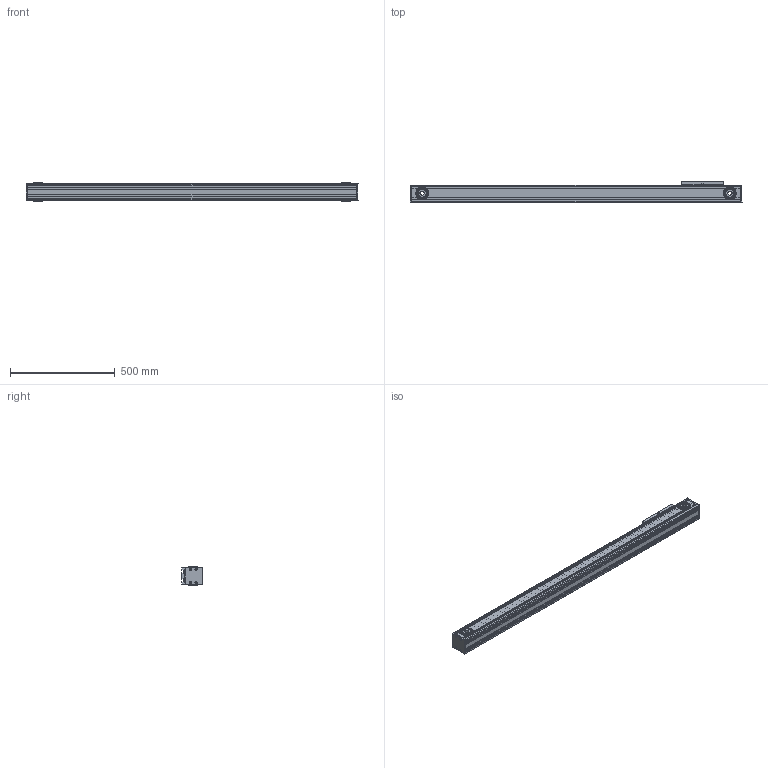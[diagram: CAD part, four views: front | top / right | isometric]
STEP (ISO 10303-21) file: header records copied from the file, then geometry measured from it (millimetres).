
FILE_DESCRIPTION (( 'STEP AP214' ), '1' );
FILE_NAME ('TKR80-1200A1-F0-R3-高速内滚轮直线模组.step', '2025-10-10T03:26:46', ( '' ), ( '' ), 'SwSTEP 2.0', 'SolidWorks 2024', '' );
FILE_SCHEMA (( 'AUTOMOTIVE_DESIGN' ));
Length unit declared in the file: millimetre
Products named in the file (3): TKR80-1200-R3-01; TKR80-1200A1-F0-R3-高速内滚轮直线模组; TKR80-R3-02
Assembly tree (2 placements, depth 2):
  TKR80-1200A1-F0-R3-高速内滚轮直线模组
    TKR80-1200-R3-01
    TKR80-R3-02
Bounding box: 1586 x 100 x 87 mm (x, y, z)
Volume: 4704885.3 mm3; surface area: 1850627.7 mm2
Topology: 1 solids, 52 shells, 2499 faces, 6775 edges, 4338 vertices
Faces by surface type: cylinder 1279, plane 770, torus 244, cone 182, sphere 24
Entity records: 120687 total; most frequent: CARTESIAN_POINT 31465, ORIENTED_EDGE 13382, DIRECTION 13179, EDGE_CURVE 6731, AXIS2_PLACEMENT_3D 5137, VERTEX_POINT 4338, VECTOR 2905, LINE 2905
